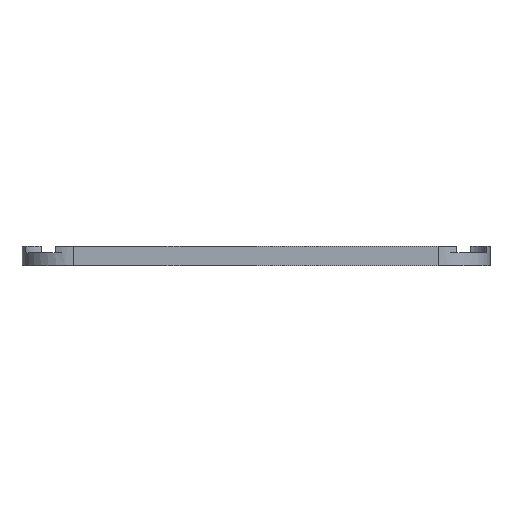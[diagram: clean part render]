
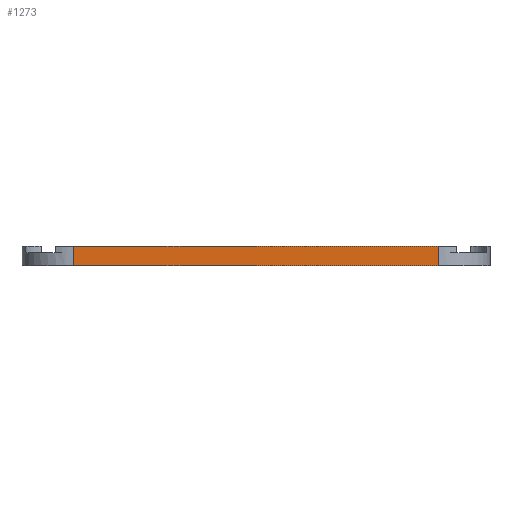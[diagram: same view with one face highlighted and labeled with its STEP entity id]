
A CAD part, left-side view. The second image highlights one B-rep face of the part: STEP entity #1273.
In plain terms, the highlighted planar face has unit normal (-1, 0, 0).
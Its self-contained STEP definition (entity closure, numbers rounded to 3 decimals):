
#1042=CARTESIAN_POINT('',(-61.,-24.5,30.));
#1043=VERTEX_POINT('',#1042);
#1062=CARTESIAN_POINT('',(-61.,31.5,30.));
#1063=VERTEX_POINT('',#1062);
#1071=CARTESIAN_POINT('',(-61.,31.5,30.));
#1072=DIRECTION('',(-0.,-1.,0.));
#1073=VECTOR('',#1072,56.);
#1074=LINE('',#1071,#1073);
#1075=EDGE_CURVE('',#1063,#1043,#1074,.T.);
#1231=CARTESIAN_POINT('',(-61.,31.5,27.));
#1232=VERTEX_POINT('',#1231);
#1240=CARTESIAN_POINT('',(-61.,31.5,27.));
#1241=DIRECTION('',(-0.,0.,1.));
#1242=VECTOR('',#1241,3.);
#1243=LINE('',#1240,#1242);
#1244=EDGE_CURVE('',#1232,#1063,#1243,.T.);
#1250=CARTESIAN_POINT('',(-61.,-24.5,29.));
#1251=DIRECTION('',(-1.,0.,0.));
#1252=DIRECTION('',(0.,1.,-0.));
#1253=AXIS2_PLACEMENT_3D('',#1250,#1251,#1252);
#1254=PLANE('',#1253);
#1255=ORIENTED_EDGE('',*,*,#1244,.F.);
#1256=CARTESIAN_POINT('',(-61.,-24.5,27.));
#1257=VERTEX_POINT('',#1256);
#1258=CARTESIAN_POINT('',(-61.,-24.5,27.));
#1259=DIRECTION('',(0.,1.,-0.));
#1260=VECTOR('',#1259,56.);
#1261=LINE('',#1258,#1260);
#1262=EDGE_CURVE('',#1257,#1232,#1261,.T.);
#1263=ORIENTED_EDGE('',*,*,#1262,.F.);
#1264=CARTESIAN_POINT('',(-61.,-24.5,27.));
#1265=DIRECTION('',(-0.,0.,1.));
#1266=VECTOR('',#1265,3.);
#1267=LINE('',#1264,#1266);
#1268=EDGE_CURVE('',#1257,#1043,#1267,.T.);
#1269=ORIENTED_EDGE('',*,*,#1268,.T.);
#1270=ORIENTED_EDGE('',*,*,#1075,.F.);
#1271=EDGE_LOOP('',(#1255,#1263,#1269,#1270));
#1272=FACE_BOUND('',#1271,.T.);
#1273=ADVANCED_FACE('',(#1272),#1254,.T.);
